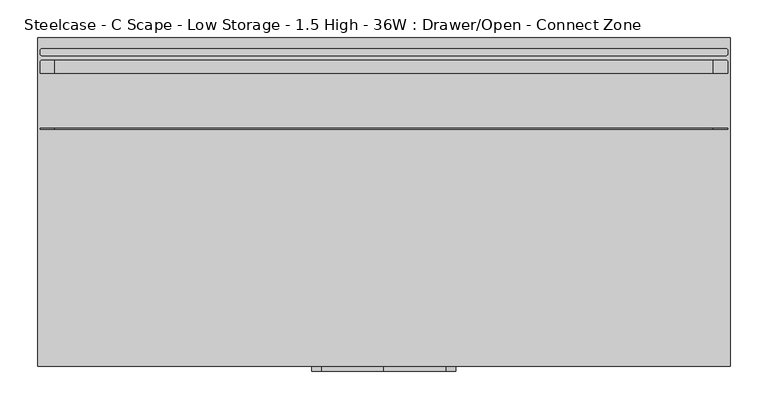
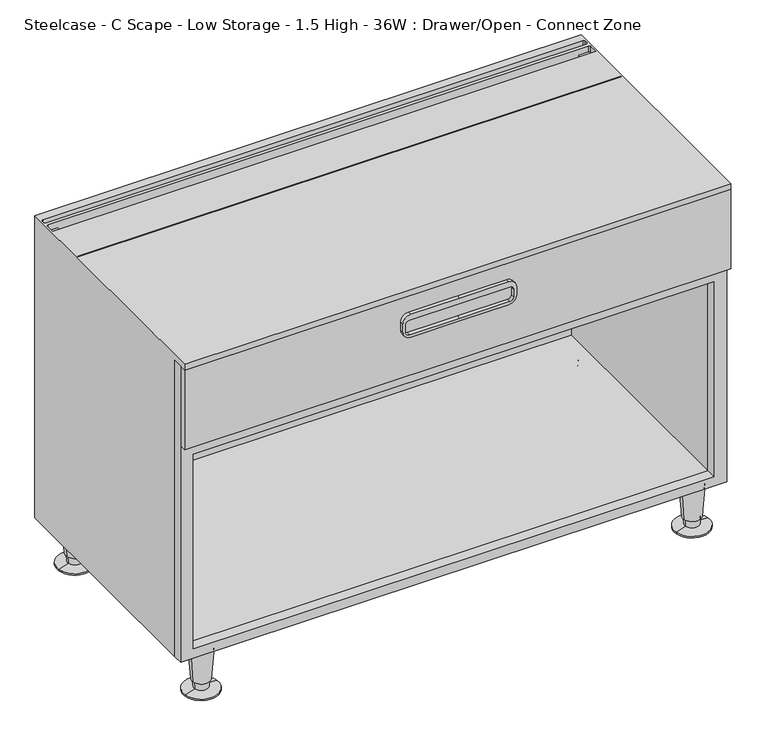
"""IFC4 building model written with IfcOpenShell, lengths in millimetres: furniture geometry, Steelcase - C Scape - Low Storage - 1.5 High - 36W : Drawer/Open - Connect Zone."""

from ifc_helpers import new_model, si_unit, point, frame, frame_2d, origin, place, context, project, spatial, polyline, circle_curve, trimmed, segment, composite_curve, outline, extrude, source, transform, mapped, element, save
from ifc_brep_helpers import plane_surface, cylinder_surface, revolved_surface, advanced_brep


def steelcase_c_scape_low_storage_1_5_high_36w_drawer_open_6fa523aa(model_context):
    return source(origin(), model_context, "Body", "SolidModel", [
        extrude(outline(polyline([(76.2, 0.0), (76.2, 913.13), (599.44, 913.13), (599.44, 0.0), (76.2, 0.0)]), holes=[polyline([(458.7875121, 891.1617285), (458.7875121, 21.3382324), (582.93, 21.3382324), (582.93, 891.1617285), (458.7875121, 891.1617285)]), polyline([(92.7100024, 891.1617285), (92.7100024, 21.3382324), (436.8419, 21.3382324), (436.8419, 891.1617285), (92.7100024, 891.1617285)])]), frame((0.0, -421.6443408, 0.0), z_axis=(0.0, 1.0, 0.0), x_axis=(0.0, 0.0, 1.0)), (0.0, 0.0, 1.0), 17.2762904),
        extrude(outline(composite_curve([segment(trimmed(circle_curve(frame_2d((558.165, 374.0147442)), 12.7), [point((570.865, 374.0147442))], [point((558.165, 361.3147442))], False, "CARTESIAN"), True, "CONTINUOUS"), segment(polyline([(558.165, 361.3147442), (543.5600291, 361.3147442)]), True, "CONTINUOUS"), segment(trimmed(circle_curve(frame_2d((543.5600291, 374.0147442)), 12.7), [point((543.5600291, 361.3147442))], [point((530.8600291, 374.0147442))], False, "CARTESIAN"), True, "CONTINUOUS"), segment(polyline([(530.8600291, 374.0147442), (530.8600291, 456.2475), (530.8600291, 538.4802558)]), True, "CONTINUOUS"), segment(trimmed(circle_curve(frame_2d((543.5600291, 538.4802558)), 12.7), [point((530.8600291, 538.4802558))], [point((543.5600291, 551.1802558))], False, "CARTESIAN"), True, "CONTINUOUS"), segment(polyline([(543.5600291, 551.1802558), (558.165, 551.1802558)]), True, "CONTINUOUS"), segment(trimmed(circle_curve(frame_2d((558.165, 538.4802558)), 12.7), [point((558.165, 551.1802558))], [point((570.865, 538.4802558))], False, "CARTESIAN"), True, "CONTINUOUS"), segment(polyline([(570.865, 538.4802558), (570.865, 456.2475), (570.865, 374.0147442)]), True, "CONTINUOUS")], self_intersect=False), holes=[composite_curve([segment(trimmed(circle_curve(frame_2d((554.7360184, 372.4923565)), 6.35), [point((554.7360184, 366.1423565))], [point((561.0860184, 372.4923565))], True, "CARTESIAN"), True, "CONTINUOUS"), segment(polyline([(561.0860184, 372.4923565), (561.0860184, 456.2475), (561.0860184, 540.0026435)]), True, "CONTINUOUS"), segment(trimmed(circle_curve(frame_2d((554.7360184, 540.0026435)), 6.35), [point((561.0860184, 540.0026435))], [point((554.7360184, 546.3526435))], True, "CARTESIAN"), True, "CONTINUOUS"), segment(polyline([(554.7360184, 546.3526435), (542.0360063, 546.3526435)]), True, "CONTINUOUS"), segment(trimmed(circle_curve(frame_2d((542.0360063, 540.0026435)), 6.35), [point((542.0360063, 546.3526435))], [point((535.6860063, 540.0026435))], True, "CARTESIAN"), True, "CONTINUOUS"), segment(polyline([(535.6860063, 540.0026435), (535.6860063, 456.2475), (535.6860063, 372.4923565)]), True, "CONTINUOUS"), segment(trimmed(circle_curve(frame_2d((542.0360063, 372.4923565)), 6.35), [point((535.6860063, 372.4923565))], [point((542.0360063, 366.1423565))], True, "CARTESIAN"), True, "CONTINUOUS"), segment(polyline([(542.0360063, 366.1423565), (554.7360184, 366.1423565)]), True, "CONTINUOUS")], self_intersect=False)]), frame((0.0, -439.42, 0.0), z_axis=(0.0, 1.0, 0.0), x_axis=(0.0, 0.0, 1.0)), (0.0, 0.0, 1.0), 6.35),
        advanced_brep(
        [(885.8598695, -31.5218435, 76.2), (848.1981305, -37.2840847, 76.2), (867.029, -34.4029641, 76.2), (881.9095214, -32.1262463, 19.05), (852.1484786, -36.6796819, 19.05), (879.4799345, -32.4979728, 19.05), (854.5780655, -36.3079555, 19.05), (878.791165, -32.6033544, 5.7545598), (855.266835, -36.2025738, 5.7545598), (896.1400485, -29.9489775, 2.5119506), (837.9179515, -38.8569507, 2.5119506), (896.1400485, -29.9489775, 0.0), (837.9179515, -38.8569507, 0.0), (867.029, -34.4029641, 0.0)],
        [
            (0, 1, circle_curve(frame((867.029, -34.4029641, 76.2), z_axis=(0.0, 0.0, 1.0), x_axis=(0.0, -1.0, 0.0)), 19.05)),
            (1, 2),
            (2, 0),
            (1, 0, circle_curve(frame((867.029, -34.4029641, 76.2), z_axis=(0.0, 0.0, 1.0), x_axis=(0.0, -1.0, 0.0)), 19.05)),
            (3, 4, circle_curve(frame((867.029, -34.4029641, 19.05), z_axis=(0.0, 0.0, 1.0), x_axis=(0.0, -1.0, 0.0)), 15.0536827)),
            (4, 1),
            (0, 3),
            (4, 3, circle_curve(frame((867.029, -34.4029641, 19.05), z_axis=(0.0, 0.0, 1.0), x_axis=(0.0, -1.0, 0.0)), 15.0536827)),
            (5, 6, circle_curve(frame((867.029, -34.4029641, 19.05), z_axis=(0.0, 0.0, 1.0), x_axis=(0.0, -1.0, 0.0)), 12.5958232)),
            (6, 4),
            (3, 5),
            (6, 5, circle_curve(frame((867.029, -34.4029641, 19.05), z_axis=(0.0, 0.0, 1.0), x_axis=(0.0, -1.0, 0.0)), 12.5958232)),
            (7, 8, circle_curve(frame((867.029, -34.4029641, 5.7545598), z_axis=(0.0, 0.0, 1.0), x_axis=(0.0, -1.0, 0.0)), 11.8990387)),
            (8, 6),
            (5, 7),
            (8, 7, circle_curve(frame((867.029, -34.4029641, 5.7545598), z_axis=(0.0, 0.0, 1.0), x_axis=(0.0, -1.0, 0.0)), 11.8990387)),
            (9, 10, circle_curve(frame((867.029, -34.4029641, 2.5119506), z_axis=(0.0, 0.0, 1.0), x_axis=(0.0, -1.0, 0.0)), 29.4498071)),
            (10, 8),
            (7, 9),
            (10, 9, circle_curve(frame((867.029, -34.4029641, 2.5119506), z_axis=(0.0, 0.0, 1.0), x_axis=(0.0, -1.0, 0.0)), 29.4498071)),
            (11, 12, circle_curve(frame((867.029, -34.4029641, 0.0), z_axis=(0.0, 0.0, 1.0), x_axis=(0.0, -1.0, 0.0)), 29.4498071)),
            (12, 10),
            (9, 11),
            (12, 11, circle_curve(frame((867.029, -34.4029641, 0.0), z_axis=(0.0, 0.0, 1.0), x_axis=(0.0, -1.0, 0.0)), 29.4498071)),
            (13, 12),
            (11, 13),
        ],
        [
            plane_surface(frame((867.029, -34.4029641, 76.2), z_axis=(0.0, 0.0, 1.0), x_axis=(0.0, -1.0, 0.0))),
            revolved_surface(polyline([(867.029, -53.4529641, 76.2), (867.029, -49.4566468, 19.05)]), (867.029, -34.4029641, 25.4), (0.0, 0.0, -1.0)),
            plane_surface(frame((867.029, -34.4029641, 19.05), z_axis=(0.0, 0.0, -1.0), x_axis=(0.0, -1.0, 0.0))),
            revolved_surface(polyline([(867.029, -46.9987873, 19.05), (867.029, -46.3020028, 5.7545598)]), (867.029, -34.4029641, 25.4), (0.0, 0.0, -1.0)),
            revolved_surface(polyline([(867.029, -46.3020028, 5.7545598), (867.029, -63.8527712, 2.5119506)]), (867.029, -34.4029641, 25.4), (0.0, 0.0, -1.0)),
            cylinder_surface(frame((867.029, -34.4029641, 25.4), z_axis=(0.0, 0.0, -1.0), x_axis=(0.0, -1.0, 0.0)), 29.4498071),
            plane_surface(frame((867.029, -34.4029641, 0.0), z_axis=(0.0, 0.0, -1.0), x_axis=(0.0, -1.0, 0.0))),
        ],
        [
            (0, [[1, 2, 3]]),
            (0, [[4, -3, -2]]),
            (1, [[5, 6, -1, 7]]),
            (1, [[8, -7, -4, -6]]),
            (2, [[9, 10, -5, 11]]),
            (2, [[12, -11, -8, -10]]),
            (3, [[13, 14, -9, 15]]),
            (3, [[16, -15, -12, -14]]),
            (4, [[17, 18, -13, 19]]),
            (4, [[20, -19, -16, -18]]),
            (5, [[21, 22, -17, 23]]),
            (5, [[24, -23, -20, -22]]),
            (6, [[25, -21, 26]]),
            (6, [[-26, -24, -25]]),
        ],
    ),
        advanced_brep(
        [(885.8598695, -397.1702762, 76.2), (848.1981305, -402.9325174, 76.2), (867.029, -400.0513968, 76.2), (881.9095214, -397.774679, 19.05), (852.1484786, -402.3281146, 19.05), (879.4799345, -398.1464055, 19.05), (854.5780655, -401.9563882, 19.05), (878.791165, -398.2517871, 5.7545598), (855.266835, -401.8510065, 5.7545598), (896.1400485, -395.5974102, 2.5119506), (837.9179515, -404.5053834, 2.5119506), (896.1400485, -395.5974102, 0.0), (837.9179515, -404.5053834, 0.0), (867.029, -400.0513968, 0.0)],
        [
            (0, 1, circle_curve(frame((867.029, -400.0513968, 76.2), z_axis=(0.0, 0.0, 1.0), x_axis=(0.0, -1.0, 0.0)), 19.05)),
            (1, 2),
            (2, 0),
            (1, 0, circle_curve(frame((867.029, -400.0513968, 76.2), z_axis=(0.0, 0.0, 1.0), x_axis=(0.0, -1.0, 0.0)), 19.05)),
            (3, 4, circle_curve(frame((867.029, -400.0513968, 19.05), z_axis=(0.0, 0.0, 1.0), x_axis=(0.0, -1.0, 0.0)), 15.0536827)),
            (4, 1),
            (0, 3),
            (4, 3, circle_curve(frame((867.029, -400.0513968, 19.05), z_axis=(0.0, 0.0, 1.0), x_axis=(0.0, -1.0, 0.0)), 15.0536827)),
            (5, 6, circle_curve(frame((867.029, -400.0513968, 19.05), z_axis=(0.0, 0.0, 1.0), x_axis=(0.0, -1.0, 0.0)), 12.5958232)),
            (6, 4),
            (3, 5),
            (6, 5, circle_curve(frame((867.029, -400.0513968, 19.05), z_axis=(0.0, 0.0, 1.0), x_axis=(0.0, -1.0, 0.0)), 12.5958232)),
            (7, 8, circle_curve(frame((867.029, -400.0513968, 5.7545598), z_axis=(0.0, 0.0, 1.0), x_axis=(0.0, -1.0, 0.0)), 11.8990387)),
            (8, 6),
            (5, 7),
            (8, 7, circle_curve(frame((867.029, -400.0513968, 5.7545598), z_axis=(0.0, 0.0, 1.0), x_axis=(0.0, -1.0, 0.0)), 11.8990387)),
            (9, 10, circle_curve(frame((867.029, -400.0513968, 2.5119506), z_axis=(0.0, 0.0, 1.0), x_axis=(0.0, -1.0, 0.0)), 29.4498071)),
            (10, 8),
            (7, 9),
            (10, 9, circle_curve(frame((867.029, -400.0513968, 2.5119506), z_axis=(0.0, 0.0, 1.0), x_axis=(0.0, -1.0, 0.0)), 29.4498071)),
            (11, 12, circle_curve(frame((867.029, -400.0513968, 0.0), z_axis=(0.0, 0.0, 1.0), x_axis=(0.0, -1.0, 0.0)), 29.4498071)),
            (12, 10),
            (9, 11),
            (12, 11, circle_curve(frame((867.029, -400.0513968, 0.0), z_axis=(0.0, 0.0, 1.0), x_axis=(0.0, -1.0, 0.0)), 29.4498071)),
            (13, 12),
            (11, 13),
        ],
        [
            plane_surface(frame((867.029, -400.0513968, 76.2), z_axis=(0.0, 0.0, 1.0), x_axis=(0.0, -1.0, 0.0))),
            revolved_surface(polyline([(867.029, -419.1013968, 76.2), (867.029, -415.1050795, 19.05)]), (867.029, -400.0513968, 25.4), (0.0, 0.0, -1.0)),
            plane_surface(frame((867.029, -400.0513968, 19.05), z_axis=(0.0, 0.0, -1.0), x_axis=(0.0, -1.0, 0.0))),
            revolved_surface(polyline([(867.029, -412.64722, 19.05), (867.029, -411.9504355, 5.7545598)]), (867.029, -400.0513968, 25.4), (0.0, 0.0, -1.0)),
            revolved_surface(polyline([(867.029, -411.9504355, 5.7545598), (867.029, -429.5012039, 2.5119506)]), (867.029, -400.0513968, 25.4), (0.0, 0.0, -1.0)),
            cylinder_surface(frame((867.029, -400.0513968, 25.4), z_axis=(0.0, 0.0, -1.0), x_axis=(0.0, -1.0, 0.0)), 29.4498071),
            plane_surface(frame((867.029, -400.0513968, 0.0), z_axis=(0.0, 0.0, -1.0), x_axis=(0.0, -1.0, 0.0))),
        ],
        [
            (0, [[1, 2, 3]]),
            (0, [[4, -3, -2]]),
            (1, [[5, 6, -1, 7]]),
            (1, [[8, -7, -4, -6]]),
            (2, [[9, 10, -5, 11]]),
            (2, [[12, -11, -8, -10]]),
            (3, [[13, 14, -9, 15]]),
            (3, [[16, -15, -12, -14]]),
            (4, [[17, 18, -13, 19]]),
            (4, [[20, -19, -16, -18]]),
            (5, [[21, 22, -17, 23]]),
            (5, [[24, -23, -20, -22]]),
            (6, [[25, -21, 26]]),
            (6, [[-26, -24, -25]]),
        ],
    ),
        advanced_brep(
        [(65.5422821, -397.1702762, 76.2), (27.8805432, -402.9325174, 76.2), (46.7114126, -400.0513968, 76.2), (61.5919341, -397.774679, 19.05), (31.8308912, -402.3281146, 19.05), (59.1623471, -398.1464055, 19.05), (34.2604781, -401.9563882, 19.05), (58.4735776, -398.2517871, 5.7545598), (34.9492476, -401.8510065, 5.7545598), (75.8224611, -395.5974102, 2.5119506), (17.6003641, -404.5053834, 2.5119506), (75.8224611, -395.5974102, 0.0), (17.6003641, -404.5053834, 0.0), (46.7114126, -400.0513968, 0.0)],
        [
            (0, 1, circle_curve(frame((46.7114126, -400.0513968, 76.2), z_axis=(0.0, 0.0, 1.0), x_axis=(0.0, -1.0, 0.0)), 19.05)),
            (1, 2),
            (2, 0),
            (1, 0, circle_curve(frame((46.7114126, -400.0513968, 76.2), z_axis=(0.0, 0.0, 1.0), x_axis=(0.0, -1.0, 0.0)), 19.05)),
            (3, 4, circle_curve(frame((46.7114126, -400.0513968, 19.05), z_axis=(0.0, 0.0, 1.0), x_axis=(0.0, -1.0, 0.0)), 15.0536827)),
            (4, 1),
            (0, 3),
            (4, 3, circle_curve(frame((46.7114126, -400.0513968, 19.05), z_axis=(0.0, 0.0, 1.0), x_axis=(0.0, -1.0, 0.0)), 15.0536827)),
            (5, 6, circle_curve(frame((46.7114126, -400.0513968, 19.05), z_axis=(0.0, 0.0, 1.0), x_axis=(0.0, -1.0, 0.0)), 12.5958232)),
            (6, 4),
            (3, 5),
            (6, 5, circle_curve(frame((46.7114126, -400.0513968, 19.05), z_axis=(0.0, 0.0, 1.0), x_axis=(0.0, -1.0, 0.0)), 12.5958232)),
            (7, 8, circle_curve(frame((46.7114126, -400.0513968, 5.7545598), z_axis=(0.0, 0.0, 1.0), x_axis=(0.0, -1.0, 0.0)), 11.8990387)),
            (8, 6),
            (5, 7),
            (8, 7, circle_curve(frame((46.7114126, -400.0513968, 5.7545598), z_axis=(0.0, 0.0, 1.0), x_axis=(0.0, -1.0, 0.0)), 11.8990387)),
            (9, 10, circle_curve(frame((46.7114126, -400.0513968, 2.5119506), z_axis=(0.0, 0.0, 1.0), x_axis=(0.0, -1.0, 0.0)), 29.4498071)),
            (10, 8),
            (7, 9),
            (10, 9, circle_curve(frame((46.7114126, -400.0513968, 2.5119506), z_axis=(0.0, 0.0, 1.0), x_axis=(0.0, -1.0, 0.0)), 29.4498071)),
            (11, 12, circle_curve(frame((46.7114126, -400.0513968, 0.0), z_axis=(0.0, 0.0, 1.0), x_axis=(0.0, -1.0, 0.0)), 29.4498071)),
            (12, 10),
            (9, 11),
            (12, 11, circle_curve(frame((46.7114126, -400.0513968, 0.0), z_axis=(0.0, 0.0, 1.0), x_axis=(0.0, -1.0, 0.0)), 29.4498071)),
            (13, 12),
            (11, 13),
        ],
        [
            plane_surface(frame((46.7114126, -400.0513968, 76.2), z_axis=(0.0, 0.0, 1.0), x_axis=(0.0, -1.0, 0.0))),
            revolved_surface(polyline([(46.7114126, -419.1013968, 76.2), (46.7114126, -415.1050795, 19.05)]), (46.7114126, -400.0513968, 25.4), (0.0, 0.0, -1.0)),
            plane_surface(frame((46.7114126, -400.0513968, 19.05), z_axis=(0.0, 0.0, -1.0), x_axis=(0.0, -1.0, 0.0))),
            revolved_surface(polyline([(46.7114126, -412.64722, 19.05), (46.7114126, -411.9504355, 5.7545598)]), (46.7114126, -400.0513968, 25.4), (0.0, 0.0, -1.0)),
            revolved_surface(polyline([(46.7114126, -411.9504355, 5.7545598), (46.7114126, -429.5012039, 2.5119506)]), (46.7114126, -400.0513968, 25.4), (0.0, 0.0, -1.0)),
            cylinder_surface(frame((46.7114126, -400.0513968, 25.4), z_axis=(0.0, 0.0, -1.0), x_axis=(0.0, -1.0, 0.0)), 29.4498071),
            plane_surface(frame((46.7114126, -400.0513968, 0.0), z_axis=(0.0, 0.0, -1.0), x_axis=(0.0, -1.0, 0.0))),
        ],
        [
            (0, [[1, 2, 3]]),
            (0, [[4, -3, -2]]),
            (1, [[5, 6, -1, 7]]),
            (1, [[8, -7, -4, -6]]),
            (2, [[9, 10, -5, 11]]),
            (2, [[12, -11, -8, -10]]),
            (3, [[13, 14, -9, 15]]),
            (3, [[16, -15, -12, -14]]),
            (4, [[17, 18, -13, 19]]),
            (4, [[20, -19, -16, -18]]),
            (5, [[21, 22, -17, 23]]),
            (5, [[24, -23, -20, -22]]),
            (6, [[25, -21, 26]]),
            (6, [[-26, -24, -25]]),
        ],
    ),
        advanced_brep(
        [(65.5422821, -31.5218435, 76.2), (27.8805432, -37.2840847, 76.2), (46.7114126, -34.4029641, 76.2), (61.5919341, -32.1262463, 19.05), (31.8308912, -36.6796819, 19.05), (59.1623471, -32.4979728, 19.05), (34.2604781, -36.3079555, 19.05), (58.4735776, -32.6033544, 5.7545598), (34.9492476, -36.2025738, 5.7545598), (75.8224611, -29.9489775, 2.5119506), (17.6003641, -38.8569507, 2.5119506), (75.8224611, -29.9489775, 0.0), (17.6003641, -38.8569507, 0.0), (46.7114126, -34.4029641, 0.0)],
        [
            (0, 1, circle_curve(frame((46.7114126, -34.4029641, 76.2), z_axis=(0.0, 0.0, 1.0), x_axis=(0.0, -1.0, 0.0)), 19.05)),
            (1, 2),
            (2, 0),
            (1, 0, circle_curve(frame((46.7114126, -34.4029641, 76.2), z_axis=(0.0, 0.0, 1.0), x_axis=(0.0, -1.0, 0.0)), 19.05)),
            (3, 4, circle_curve(frame((46.7114126, -34.4029641, 19.05), z_axis=(0.0, 0.0, 1.0), x_axis=(0.0, -1.0, 0.0)), 15.0536827)),
            (4, 1),
            (0, 3),
            (4, 3, circle_curve(frame((46.7114126, -34.4029641, 19.05), z_axis=(0.0, 0.0, 1.0), x_axis=(0.0, -1.0, 0.0)), 15.0536827)),
            (5, 6, circle_curve(frame((46.7114126, -34.4029641, 19.05), z_axis=(0.0, 0.0, 1.0), x_axis=(0.0, -1.0, 0.0)), 12.5958232)),
            (6, 4),
            (3, 5),
            (6, 5, circle_curve(frame((46.7114126, -34.4029641, 19.05), z_axis=(0.0, 0.0, 1.0), x_axis=(0.0, -1.0, 0.0)), 12.5958232)),
            (7, 8, circle_curve(frame((46.7114126, -34.4029641, 5.7545598), z_axis=(0.0, 0.0, 1.0), x_axis=(0.0, -1.0, 0.0)), 11.8990387)),
            (8, 6),
            (5, 7),
            (8, 7, circle_curve(frame((46.7114126, -34.4029641, 5.7545598), z_axis=(0.0, 0.0, 1.0), x_axis=(0.0, -1.0, 0.0)), 11.8990387)),
            (9, 10, circle_curve(frame((46.7114126, -34.4029641, 2.5119506), z_axis=(0.0, 0.0, 1.0), x_axis=(0.0, -1.0, 0.0)), 29.4498071)),
            (10, 8),
            (7, 9),
            (10, 9, circle_curve(frame((46.7114126, -34.4029641, 2.5119506), z_axis=(0.0, 0.0, 1.0), x_axis=(0.0, -1.0, 0.0)), 29.4498071)),
            (11, 12, circle_curve(frame((46.7114126, -34.4029641, 0.0), z_axis=(0.0, 0.0, 1.0), x_axis=(0.0, -1.0, 0.0)), 29.4498071)),
            (12, 10),
            (9, 11),
            (12, 11, circle_curve(frame((46.7114126, -34.4029641, 0.0), z_axis=(0.0, 0.0, 1.0), x_axis=(0.0, -1.0, 0.0)), 29.4498071)),
            (13, 12),
            (11, 13),
        ],
        [
            plane_surface(frame((46.7114126, -34.4029641, 76.2), z_axis=(0.0, 0.0, 1.0), x_axis=(0.0, -1.0, 0.0))),
            revolved_surface(polyline([(46.7114126, -53.4529641, 76.2), (46.7114126, -49.4566468, 19.05)]), (46.7114126, -34.4029641, 25.4), (0.0, 0.0, -1.0)),
            plane_surface(frame((46.7114126, -34.4029641, 19.05), z_axis=(0.0, 0.0, -1.0), x_axis=(0.0, -1.0, 0.0))),
            revolved_surface(polyline([(46.7114126, -46.9987873, 19.05), (46.7114126, -46.3020028, 5.7545598)]), (46.7114126, -34.4029641, 25.4), (0.0, 0.0, -1.0)),
            revolved_surface(polyline([(46.7114126, -46.3020028, 5.7545598), (46.7114126, -63.8527712, 2.5119506)]), (46.7114126, -34.4029641, 25.4), (0.0, 0.0, -1.0)),
            cylinder_surface(frame((46.7114126, -34.4029641, 25.4), z_axis=(0.0, 0.0, -1.0), x_axis=(0.0, -1.0, 0.0)), 29.4498071),
            plane_surface(frame((46.7114126, -34.4029641, 0.0), z_axis=(0.0, 0.0, -1.0), x_axis=(0.0, -1.0, 0.0))),
        ],
        [
            (0, [[1, 2, 3]]),
            (0, [[4, -3, -2]]),
            (1, [[5, 6, -1, 7]]),
            (1, [[8, -7, -4, -6]]),
            (2, [[9, 10, -5, 11]]),
            (2, [[12, -11, -8, -10]]),
            (3, [[13, 14, -9, 15]]),
            (3, [[16, -15, -12, -14]]),
            (4, [[17, 18, -13, 19]]),
            (4, [[20, -19, -16, -18]]),
            (5, [[21, 22, -17, 23]]),
            (5, [[24, -23, -20, -22]]),
            (6, [[25, -21, 26]]),
            (6, [[-26, -24, -25]]),
        ],
    ),
        advanced_brep(
        [(910.3272317, -120.6444193, 609.6), (910.3272317, -119.3775195, 609.6), (910.3272317, -119.3775195, 599.44), (910.3272317, -120.6444193, 599.44), (910.3272317, -46.4703418, 609.6), (910.3272317, -32.274699, 609.6), (910.3272317, -32.274699, 599.44), (910.3272317, -46.4703418, 599.44), (910.3272317, -20.3138654, 609.6), (910.3272317, -17.0388453, 609.6), (910.3272317, -17.0388453, 599.44), (910.3272317, -20.3138654, 599.44), (913.13, 0.0055807, 609.6), (913.13, -433.07, 609.6), (913.13, -433.07, 599.44), (913.13, -404.3680504, 599.44), (913.13, -404.3680504, 76.2), (913.13, 0.0, 76.2), (0.0, -433.07, 609.6), (-0.012551, 0.0055807, 609.6), (907.6308823, -29.5783496, 609.6), (2.7826272, -46.4703418, 609.6), (2.7826272, -32.0458511, 609.6), (5.2501287, -29.5783496, 609.6), (907.3507358, -23.2903613, 609.6), (5.5670648, -23.2903613, 609.6), (2.7826272, -20.5059237, 609.6), (2.7826272, -17.0388453, 609.6), (5.4794022, -14.3420703, 609.6), (907.6304567, -14.3420703, 609.6), (2.7826272, -119.3775195, 609.6), (2.7826272, -120.6444193, 609.6), (0.0, 0.0055807, 76.2), (571.8775189, 0.0055807, 466.2677968), (340.6174811, 0.0055807, 466.2677968), (340.6174811, 0.0055807, 432.6382043), (456.2475, 0.0055807, 432.6382043), (571.8775189, 0.0055807, 432.6382043), (571.8775189, -9.5194193, 466.2677968), (340.6174811, -9.5194193, 466.2677968), (571.8775189, -9.5194193, 450.8499879), (340.6174811, -9.5194193, 450.8499879), (5.2501287, -29.5783496, 599.44), (21.3256814, -29.5783496, 599.44), (21.3256814, -29.5783496, 458.7875121), (891.1617285, -29.5783496, 458.7875121), (891.1617285, -29.5783496, 599.44), (907.6308823, -29.5783496, 599.44), (891.1617285, -119.3775195, 599.44), (21.3256814, -119.3775195, 599.44), (21.3256814, -46.4703418, 599.44), (891.1617285, -46.4703418, 599.44), (907.3507358, -23.2903613, 599.44), (5.5670648, -23.2903613, 599.44), (2.7826272, -20.5059237, 599.44), (2.7826272, -32.0458511, 599.44), (2.7826272, -46.4703418, 599.44), (2.7826272, -119.3775195, 599.44), (5.4794022, -14.3420703, 599.44), (907.6304567, -14.3420703, 599.44), (2.7826272, -17.0388453, 599.44), (21.3256814, -120.6444193, 599.44), (2.7826272, -120.6444193, 599.44), (891.1617285, -120.6444193, 599.44), (21.3256814, -404.3680504, 92.7100024), (891.1617285, -404.3680504, 92.7100024), (891.1617285, -9.5194193, 92.7100024), (21.3256814, -9.5194193, 92.7100024), (0.0, -404.3680504, 76.2), (0.0, -404.3680504, 599.44), (0.0, -433.07, 599.44), (891.1617285, -404.3680504, 599.44), (891.1617285, -404.3680504, 458.7875121), (21.3256814, -404.3680504, 458.7875121), (21.3256814, -404.3680504, 599.44), (21.3256814, -404.3680504, 450.8499879), (891.1617285, -404.3680504, 450.8499879), (21.3256814, -126.9863574, 599.44), (891.1617285, -126.9863574, 599.44), (21.3256814, -126.9863574, 458.7875121), (891.1617285, -126.9863574, 458.7875121), (891.1617285, -120.6444193, 458.7875121), (21.3256814, -120.6444193, 458.7875121), (21.3256814, -9.5194193, 450.8499879), (891.1617285, -9.5194193, 450.8499879), (571.8775189, -9.5194193, 432.6382043), (456.2475, -9.5194193, 432.6382043), (340.6174811, -9.5194193, 432.6382043)],
        [
            (0, 1),
            (1, 2),
            (2, 3),
            (3, 0),
            (4, 5),
            (5, 6),
            (6, 7),
            (7, 4),
            (8, 9),
            (9, 10),
            (10, 11),
            (11, 8),
            (12, 13),
            (13, 14),
            (14, 15),
            (15, 16),
            (16, 17),
            (17, 12),
            (18, 13),
            (12, 19),
            (19, 18),
            (20, 5, circle_curve(frame((907.6308823, -32.274699, 609.6), z_axis=(0.0, 0.0, -1.0), x_axis=(1.0, 0.0, 0.0)), 2.6963494)),
            (4, 21),
            (21, 22),
            (22, 23, circle_curve(frame((5.2501287, -32.0458511, 609.6), z_axis=(0.0, 0.0, -1.0), x_axis=(1.0, 0.0, 0.0)), 2.4675015)),
            (23, 20),
            (8, 24, circle_curve(frame((907.3507358, -20.3138654, 609.6), z_axis=(0.0, 0.0, -1.0), x_axis=(1.0, 0.0, 0.0)), 2.9764959)),
            (24, 25),
            (25, 26, circle_curve(frame((5.5670648, -20.5059237, 609.6), z_axis=(0.0, 0.0, -1.0), x_axis=(1.0, 0.0, 0.0)), 2.7844376)),
            (26, 27),
            (27, 28, circle_curve(frame((5.4794022, -17.0388453, 609.6), z_axis=(0.0, 0.0, -1.0), x_axis=(1.0, 0.0, 0.0)), 2.696775)),
            (28, 29),
            (29, 9, circle_curve(frame((907.6304567, -17.0388453, 609.6), z_axis=(0.0, 0.0, -1.0), x_axis=(1.0, 0.0, 0.0)), 2.696775)),
            (30, 1),
            (0, 31),
            (31, 30),
            (17, 32),
            (32, 19),
            (33, 34),
            (34, 35),
            (35, 36),
            (36, 37),
            (37, 33),
            (33, 38),
            (38, 39),
            (39, 34),
            (38, 40),
            (40, 41),
            (41, 39),
            (23, 42),
            (42, 43),
            (43, 44),
            (44, 45),
            (45, 46),
            (46, 47),
            (47, 20),
            (48, 49),
            (49, 50),
            (50, 51),
            (51, 48),
            (47, 6, circle_curve(frame((907.6308823, -32.274699, 599.44), z_axis=(0.0, 0.0, -1.0), x_axis=(1.0, 0.0, 0.0)), 2.6963494)),
            (11, 52, circle_curve(frame((907.3507358, -20.3138654, 599.44), z_axis=(0.0, 0.0, -1.0), x_axis=(1.0, 0.0, 0.0)), 2.9764959)),
            (52, 24),
            (52, 53),
            (53, 25),
            (53, 54, circle_curve(frame((5.5670648, -20.5059237, 599.44), z_axis=(0.0, 0.0, -1.0), x_axis=(1.0, 0.0, 0.0)), 2.7844376)),
            (54, 26),
            (22, 55),
            (55, 42, circle_curve(frame((5.2501287, -32.0458511, 599.44), z_axis=(0.0, 0.0, -1.0), x_axis=(1.0, 0.0, 0.0)), 2.4675015)),
            (7, 51),
            (50, 56),
            (56, 21),
            (30, 57),
            (57, 49),
            (48, 2),
            (28, 58),
            (58, 59),
            (59, 29),
            (59, 10, circle_curve(frame((907.6304567, -17.0388453, 599.44), z_axis=(0.0, 0.0, -1.0), x_axis=(1.0, 0.0, 0.0)), 2.696775)),
            (27, 60),
            (60, 58, circle_curve(frame((5.4794022, -17.0388453, 599.44), z_axis=(0.0, 0.0, -1.0), x_axis=(1.0, 0.0, 0.0)), 2.696775)),
            (61, 49),
            (57, 62),
            (62, 61),
            (48, 63),
            (63, 3),
            (60, 54),
            (50, 43),
            (55, 56),
            (46, 51),
            (64, 65),
            (65, 66),
            (66, 67),
            (67, 64),
            (16, 68),
            (68, 32),
            (68, 69),
            (69, 70),
            (70, 18),
            (15, 71),
            (71, 72),
            (72, 73),
            (73, 74),
            (74, 69),
            (64, 75),
            (75, 76),
            (76, 65),
            (70, 14),
            (74, 77),
            (77, 78),
            (78, 71),
            (77, 79),
            (79, 80),
            (80, 78),
            (63, 81),
            (81, 82),
            (82, 61),
            (62, 31),
            (44, 82),
            (81, 45),
            (79, 73),
            (72, 80),
            (75, 83),
            (83, 41),
            (40, 84),
            (84, 76),
            (67, 83),
            (84, 66),
            (85, 86),
            (86, 87),
            (87, 41),
            (40, 85),
            (37, 85),
            (36, 86),
            (35, 87),
        ],
        [
            plane_surface(frame((910.3272317, -120.6444193, 609.6), z_axis=(-1.0, 0.0, 0.0), x_axis=(0.0, 0.0, 1.0))),
            plane_surface(frame((913.13, -120.6444193, 609.6), z_axis=(1.0, 0.0, 0.0), x_axis=(0.0, 0.0, -1.0))),
            plane_surface(frame((910.3272317, -120.6444193, 609.6), z_axis=(0.0, 0.0, 1.0), x_axis=(1.0, 0.0, 0.0))),
            plane_surface(frame((910.3272317, 0.0055807, 609.6), z_axis=(0.0, 1.0, 0.0), x_axis=(1.0, 0.0, 0.0))),
            plane_surface(frame((910.3272317, 0.0055807, 466.2677968), z_axis=(0.0, 0.0, -1.0), x_axis=(1.0, 0.0, 0.0))),
            plane_surface(frame((910.3272317, -9.5194193, 466.2677968), z_axis=(0.0, 1.0, 0.0), x_axis=(1.0, 0.0, 0.0))),
            plane_surface(frame((910.3272317, -29.5783496, 458.7875121), z_axis=(0.0, -1.0, 0.0), x_axis=(1.0, 0.0, 0.0))),
            plane_surface(frame((910.3272317, -29.5783496, 599.44), z_axis=(0.0, 0.0, -1.0), x_axis=(1.0, 0.0, 0.0))),
            revolved_surface(polyline([(910.3272317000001, -32.274699, 599.44), (910.3272317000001, -32.274699, 609.6)]), (907.6308823, -32.274699, 599.44), (0.0, 0.0, -1.0)),
            revolved_surface(polyline([(910.3272317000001, -20.3138654, 599.44), (910.3272317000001, -20.3138654, 609.6)]), (907.3507358, -20.3138654, 599.44), (0.0, 0.0, -1.0)),
            plane_surface(frame((907.3507358, -23.2903613, 609.6), z_axis=(0.0, 1.0, 0.0), x_axis=(0.0, 0.0, -1.0))),
            revolved_surface(polyline([(8.3515024, -20.5059237, 599.44), (8.3515024, -20.5059237, 609.6)]), (5.5670648, -20.5059237, 599.44), (0.0, 0.0, -1.0)),
            revolved_surface(polyline([(7.7176302, -32.0458511, 599.44), (7.7176302, -32.0458511, 609.6)]), (5.2501287, -32.0458511, 599.44), (0.0, 0.0, -1.0)),
            plane_surface(frame((910.3272317, -46.4703418, 609.6), z_axis=(0.0, 1.0, 0.0), x_axis=(0.0, 0.0, -1.0))),
            plane_surface(frame((2.7826272, -119.3775195, 609.6), z_axis=(0.0, -1.0, 0.0), x_axis=(0.0, 0.0, -1.0))),
            plane_surface(frame((5.4794022, -14.3420703, 609.6), z_axis=(0.0, -1.0, 0.0), x_axis=(0.0, 0.0, -1.0))),
            revolved_surface(polyline([(910.3272317, -17.0388453, 599.44), (910.3272317, -17.0388453, 609.6)]), (907.6304567, -17.0388453, 41.6295811), (0.0, 0.0, -1.0)),
            revolved_surface(polyline([(8.1761772, -17.0388453, 599.44), (8.1761772, -17.0388453, 609.6)]), (5.4794022, -17.0388453, 41.6295811), (0.0, 0.0, -1.0)),
            plane_surface(frame((910.3272317, 0.0055807, 599.44), z_axis=(0.0, 0.0, 1.0), x_axis=(-1.0, 0.0, 0.0))),
            plane_surface(frame((0.0, 0.0, 92.7100024), z_axis=(0.0, 0.0, 1.0), x_axis=(-1.0, 0.0, 0.0))),
            plane_surface(frame((0.0, 0.0, 76.2), z_axis=(0.0, 0.0, -1.0), x_axis=(1.0, 0.0, 0.0))),
            plane_surface(frame((0.0, 0.0, 92.7100024), z_axis=(-1.0, 0.0, 0.0), x_axis=(0.0, 0.0, -1.0))),
            plane_surface(frame((0.0, -404.3680504, 92.7100024), z_axis=(0.0, -1.0, 0.0), x_axis=(0.0, 0.0, -1.0))),
            plane_surface(frame((913.13, -433.07, 609.6), z_axis=(0.0, -1.0, 0.0), x_axis=(-1.0, 0.0, 0.0))),
            plane_surface(frame((913.13, -433.07, 599.44), z_axis=(0.0, 0.0, -1.0), x_axis=(-1.0, 0.0, 0.0))),
            plane_surface(frame((913.13, -126.9863574, 599.44), z_axis=(0.0, -1.0, 0.0), x_axis=(-1.0, 0.0, 0.0))),
            plane_surface(frame((913.13, -120.6444193, 457.1999955), z_axis=(0.0, 1.0, 0.0), x_axis=(-1.0, 0.0, 0.0))),
            plane_surface(frame((0.0, -9.5194193, 458.7875121), z_axis=(0.0, 0.0, 1.0), x_axis=(-1.0, 0.0, 0.0))),
            plane_surface(frame((0.0, -9.5194193, 450.8499879), z_axis=(0.0, 0.0, -1.0), x_axis=(1.0, 0.0, 0.0))),
            plane_surface(frame((21.3256814, -404.3680504, 599.44), z_axis=(1.0, 0.0, 0.0), x_axis=(0.0, 0.0, -1.0))),
            plane_surface(frame((891.1617285, -9.5194193, 599.44), z_axis=(-1.0, 0.0, 0.0), x_axis=(0.0, 0.0, -1.0))),
            plane_surface(frame((2.7826272, -120.6444193, 599.44), z_axis=(1.0, 0.0, 0.0), x_axis=(0.0, 1.0, 0.0))),
            plane_surface(frame((571.8775189, -9.5194193, 459.9177968), z_axis=(0.0, -1.0, 0.0), x_axis=(0.0, 0.0, -1.0))),
            plane_surface(frame((571.8775189, -9.5194193, 466.2677968), z_axis=(-1.0, 0.0, 0.0), x_axis=(0.0, 1.0, 0.0))),
            plane_surface(frame((571.8775189, -9.5194193, 432.6382043), z_axis=(0.0, 0.0, 1.0), x_axis=(0.0, 1.0, 0.0))),
            plane_surface(frame((456.2475, -9.5194193, 432.6382043), z_axis=(0.0, 0.0, 1.0), x_axis=(0.0, 1.0, 0.0))),
            plane_surface(frame((340.6174811, -9.5194193, 432.6382043), z_axis=(1.0, 0.0, 0.0), x_axis=(0.0, 1.0, 0.0))),
        ],
        [
            (0, [[1, 2, 3, 4]]),
            (0, [[5, 6, 7, 8]]),
            (0, [[9, 10, 11, 12]]),
            (1, [[13, 14, 15, 16, 17, 18]]),
            (2, [[19, -13, 20, 21], [22, -5, 23, 24, 25, 26], [27, 28, 29, 30, 31, 32, 33, -9], [34, -1, 35, 36]]),
            (3, [[-18, 37, 38, -20], [39, 40, 41, 42, 43]]),
            (4, [[-39, 44, 45, 46]]),
            (5, [[-45, 47, 48, 49]]),
            (6, [[-26, 50, 51, 52, 53, 54, 55, 56]]),
            (7, [[57, 58, 59, 60]]),
            (8, [[-22, -56, 61, -6]]),
            (9, [[-27, -12, 62, 63]]),
            (10, [[-28, -63, 64, 65]]),
            (11, [[-29, -65, 66, 67]]),
            (12, [[-25, 68, 69, -50]]),
            (13, [[-23, -8, 70, -59, 71, 72]]),
            (14, [[-34, 73, 74, -57, 75, -2]]),
            (15, [[-32, 76, 77, 78]]),
            (16, [[-33, -78, 79, -10]]),
            (17, [[-31, 80, 81, -76]]),
            (18, [[82, -74, 83, 84]]),
            (18, [[85, 86, -3, -75]]),
            (18, [[-11, -79, -77, -81, 87, -66, -64, -62]]),
            (18, [[88, -51, -69, 89, -71]]),
            (18, [[90, -70, -7, -61, -55]]),
            (19, [[91, 92, 93, 94]]),
            (20, [[-17, 95, 96, -37]]),
            (21, [[-38, -96, 97, 98, 99, -21]]),
            (22, [[-95, -16, 100, 101, 102, 103, 104, -97], [-91, 105, 106, 107]]),
            (23, [[-14, -19, -99, 108]]),
            (24, [[-108, -98, -104, 109, 110, 111, -100, -15]]),
            (25, [[-110, 112, 113, 114]]),
            (26, [[-4, -86, 115, 116, 117, -84, 118, -35]]),
            (27, [[-53, 119, -116, 120]]),
            (27, [[-113, 121, -102, 122]]),
            (28, [[-106, 123, 124, -48, 125, 126]]),
            (29, [[-103, -121, -112, -109]]),
            (29, [[-105, -94, 127, -123]]),
            (29, [[-88, -58, -82, -117, -119, -52]]),
            (30, [[-101, -111, -114, -122]]),
            (30, [[-107, -126, 128, -92]]),
            (30, [[-90, -54, -120, -115, -85, -60]]),
            (31, [[-24, -72, -89, -68]]),
            (31, [[-30, -67, -87, -80]]),
            (31, [[-36, -118, -83, -73]]),
            (32, [[129, 130, 131, -124, -127, -93, -128, -125, 132]]),
            (33, [[-43, 133, -132, -47, -44]]),
            (34, [[-129, -133, -42, 134]]),
            (35, [[-130, -134, -41, 135]]),
            (36, [[-40, -46, -49, -131, -135]]),
        ],
    ),
        extrude(outline(polyline([(913.13, -421.6443408), (913.13, -433.07), (0.0, -433.07), (0.0, -421.6443408), (913.13, -421.6443408)])), frame((0.0, 0.0, 458.7875121), z_axis=(0.0, 0.0, 1.0), x_axis=(1.0, 0.0, 0.0)), (0.0, 0.0, 1.0), 140.6524879),
    ])


if __name__ == "__main__":
    model = new_model("IFC4")
    model_context = context("Model", 3, world=origin())
    ifc_project = project(units=[si_unit("LENGTHUNIT", "METRE", prefix="MILLI")], contexts=[model_context])
    site = spatial("IfcSite", under=ifc_project)
    building = spatial("IfcBuilding", under=site)
    placement = place(None, origin())
    steelcase_c_scape_low_storage_1_5_high_36w_drawer_open_shape = steelcase_c_scape_low_storage_1_5_high_36w_drawer_open_6fa523aa(model_context)
    element("IfcFurniture", 1, ObjectType="Steelcase - C Scape - Low Storage - 1.5 High - 36W : Drawer/Open - Connect Zone", at=placement, inside=building, context=model_context, shape_type="MappedRepresentation", body=[
        mapped(steelcase_c_scape_low_storage_1_5_high_36w_drawer_open_shape, transform((0.0, 0.0, 0.0), x_axis=(1.0, 0.0, 0.0), y_axis=(0.0, 1.0, 0.0), z_axis=(0.0, 0.0, 1.0))),
    ])
    save(model, "model.ifc")
